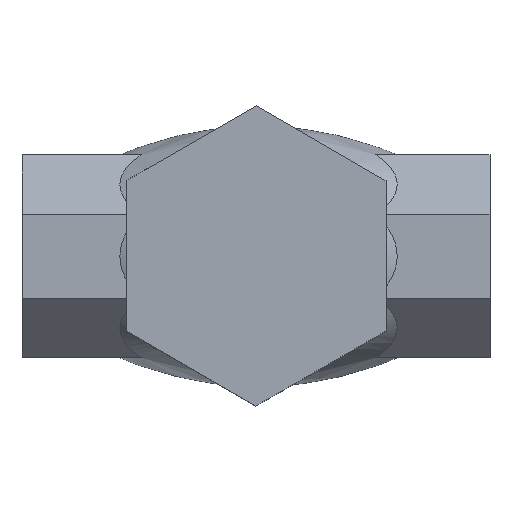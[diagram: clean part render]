
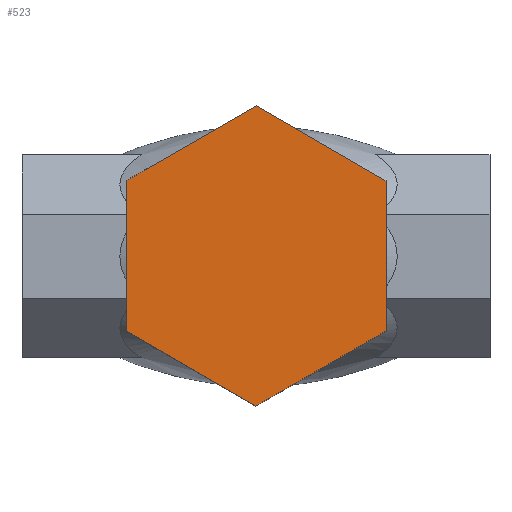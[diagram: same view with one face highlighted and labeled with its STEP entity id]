
A CAD part, top view. The second image highlights one B-rep face of the part: STEP entity #523.
In plain terms, the highlighted planar face has unit normal (0, 0, 1).
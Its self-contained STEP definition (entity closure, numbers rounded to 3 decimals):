
#47=FACE_OUTER_BOUND('',#75,.T.);
#75=EDGE_LOOP('',(#458,#459,#460,#461,#462,#463));
#111=LINE('',#1222,#162);
#115=LINE('',#1230,#166);
#118=LINE('',#1236,#169);
#121=LINE('',#1242,#172);
#124=LINE('',#1248,#175);
#127=LINE('',#1253,#178);
#162=VECTOR('',#644,10.);
#166=VECTOR('',#650,10.);
#169=VECTOR('',#655,10.);
#172=VECTOR('',#660,10.);
#175=VECTOR('',#665,10.);
#178=VECTOR('',#670,10.);
#237=VERTEX_POINT('',#1220);
#238=VERTEX_POINT('',#1221);
#241=VERTEX_POINT('',#1229);
#243=VERTEX_POINT('',#1235);
#245=VERTEX_POINT('',#1241);
#247=VERTEX_POINT('',#1247);
#305=EDGE_CURVE('',#237,#238,#111,.T.);
#309=EDGE_CURVE('',#238,#241,#115,.T.);
#312=EDGE_CURVE('',#241,#243,#118,.T.);
#315=EDGE_CURVE('',#243,#245,#121,.T.);
#318=EDGE_CURVE('',#245,#247,#124,.T.);
#321=EDGE_CURVE('',#247,#237,#127,.T.);
#458=ORIENTED_EDGE('',*,*,#321,.T.);
#459=ORIENTED_EDGE('',*,*,#305,.T.);
#460=ORIENTED_EDGE('',*,*,#309,.T.);
#461=ORIENTED_EDGE('',*,*,#312,.T.);
#462=ORIENTED_EDGE('',*,*,#315,.T.);
#463=ORIENTED_EDGE('',*,*,#318,.T.);
#495=PLANE('',#565);
#523=ADVANCED_FACE('',(#47),#495,.T.);
#565=AXIS2_PLACEMENT_3D('',#1255,#672,#673);
#644=DIRECTION('',(0.866,-0.5,0.));
#650=DIRECTION('',(0.866,0.5,0.));
#655=DIRECTION('',(0.,1.,0.));
#660=DIRECTION('',(-0.866,0.5,0.));
#665=DIRECTION('',(-0.866,-0.5,0.));
#670=DIRECTION('',(0.,-1.,0.));
#672=DIRECTION('center_axis',(0.,0.,1.));
#673=DIRECTION('ref_axis',(1.,0.,0.));
#1220=CARTESIAN_POINT('',(-25.,-14.434,52.5));
#1221=CARTESIAN_POINT('',(0.,-28.868,52.5));
#1222=CARTESIAN_POINT('',(-25.,-14.434,52.5));
#1229=CARTESIAN_POINT('',(25.,-14.434,52.5));
#1230=CARTESIAN_POINT('',(0.,-28.868,52.5));
#1235=CARTESIAN_POINT('',(25.,14.434,52.5));
#1236=CARTESIAN_POINT('',(25.,-14.434,52.5));
#1241=CARTESIAN_POINT('',(0.,28.868,52.5));
#1242=CARTESIAN_POINT('',(25.,14.434,52.5));
#1247=CARTESIAN_POINT('',(-25.,14.434,52.5));
#1248=CARTESIAN_POINT('',(0.,28.868,52.5));
#1253=CARTESIAN_POINT('',(-25.,14.434,52.5));
#1255=CARTESIAN_POINT('Origin',(0.,0.,52.5));
